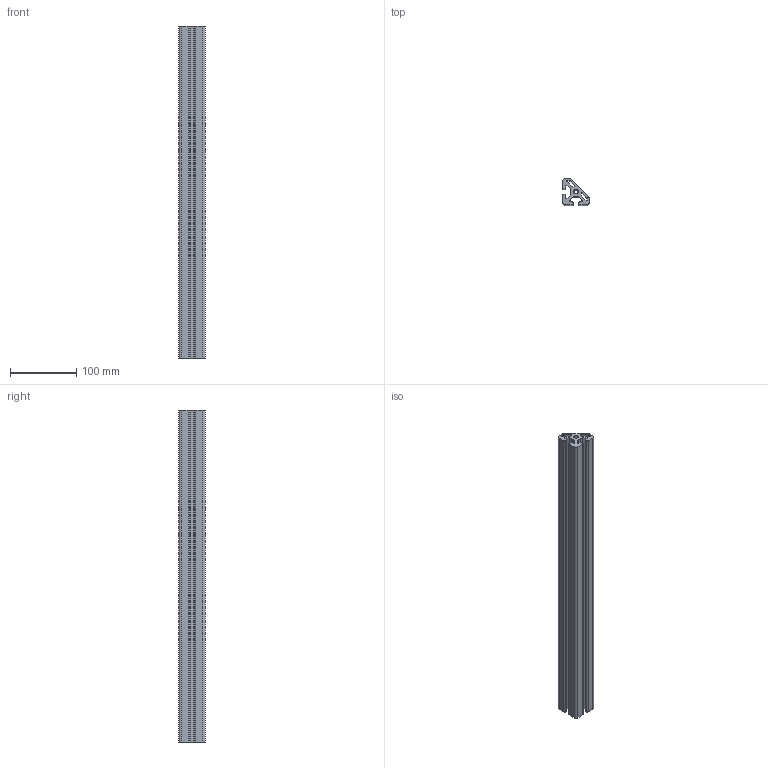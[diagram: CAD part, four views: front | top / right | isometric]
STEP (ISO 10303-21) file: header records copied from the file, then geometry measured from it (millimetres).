
FILE_DESCRIPTION (( 'STEP AP203' ), '1' );
FILE_NAME ('M ATP I8 404045°.STEP', '2012-06-04T09:25:31', ( 'alle' ), ( 'Hewlett-Packard Company' ), 'SwSTEP 2.0', 'SolidWorks 2011', '' );
FILE_SCHEMA (( 'CONFIG_CONTROL_DESIGN' ));
Length unit declared in the file: millimetre
Products named in the file (1): M ATP I8 404045°
Bounding box: 40 x 40 x 500 mm (x, y, z)
Volume: 367399.5 mm3; surface area: 151837 mm2
Topology: 1 solids, 1 shells, 64 faces, 186 edges, 124 vertices
Faces by surface type: cylinder 37, plane 27
Entity records: 2233 total; most frequent: DIRECTION 390, CARTESIAN_POINT 375, ORIENTED_EDGE 372, EDGE_CURVE 186, AXIS2_PLACEMENT_3D 139, VERTEX_POINT 124, VECTOR 112, LINE 112
